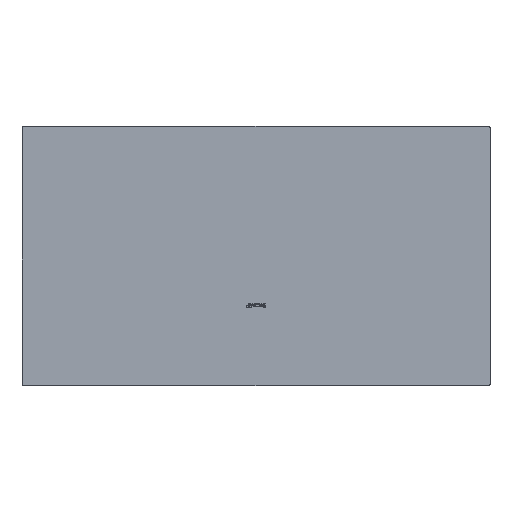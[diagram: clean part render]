
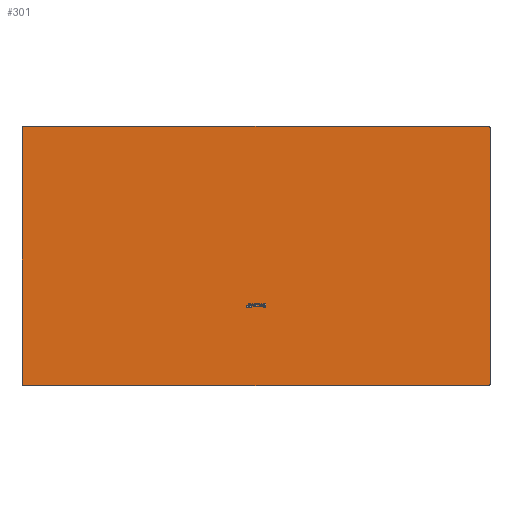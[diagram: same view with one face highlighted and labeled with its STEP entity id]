
A CAD part, top view. The second image highlights one B-rep face of the part: STEP entity #301.
In plain terms, the highlighted planar face has unit normal (0, 0, 1).
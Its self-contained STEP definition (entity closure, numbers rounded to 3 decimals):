
#241=CIRCLE('',#1663,3.);
#242=CIRCLE('',#1664,3.);
#243=CIRCLE('',#1665,3.);
#244=CIRCLE('',#1666,3.);
#301=ADVANCED_FACE('',(#453),#395,.T.);
#395=PLANE('',#1667);
#453=FACE_OUTER_BOUND('',#539,.T.);
#539=EDGE_LOOP('',(#677,#678,#679,#680,#681,#682,#683,#684));
#677=ORIENTED_EDGE('',*,*,#1193,.T.);
#678=ORIENTED_EDGE('',*,*,#1207,.T.);
#679=ORIENTED_EDGE('',*,*,#1195,.T.);
#680=ORIENTED_EDGE('',*,*,#1208,.T.);
#681=ORIENTED_EDGE('',*,*,#1201,.T.);
#682=ORIENTED_EDGE('',*,*,#1209,.T.);
#683=ORIENTED_EDGE('',*,*,#1205,.T.);
#684=ORIENTED_EDGE('',*,*,#1210,.T.);
#1049=VERTEX_POINT('',#2230);
#1050=VERTEX_POINT('',#2232);
#1051=VERTEX_POINT('',#2236);
#1052=VERTEX_POINT('',#2237);
#1057=VERTEX_POINT('',#2248);
#1058=VERTEX_POINT('',#2250);
#1061=VERTEX_POINT('',#2257);
#1062=VERTEX_POINT('',#2259);
#1193=EDGE_CURVE('',#1050,#1049,#1393,.T.);
#1195=EDGE_CURVE('',#1051,#1052,#1395,.T.);
#1201=EDGE_CURVE('',#1058,#1057,#1401,.T.);
#1205=EDGE_CURVE('',#1062,#1061,#1405,.T.);
#1207=EDGE_CURVE('',#1049,#1051,#241,.T.);
#1208=EDGE_CURVE('',#1052,#1058,#242,.T.);
#1209=EDGE_CURVE('',#1057,#1062,#243,.T.);
#1210=EDGE_CURVE('',#1061,#1050,#244,.T.);
#1393=LINE('',#2231,#1522);
#1395=LINE('',#2235,#1524);
#1401=LINE('',#2249,#1530);
#1405=LINE('',#2258,#1534);
#1522=VECTOR('',#1819,1.);
#1524=VECTOR('',#1823,1.);
#1530=VECTOR('',#1831,1.);
#1534=VECTOR('',#1837,1.);
#1663=AXIS2_PLACEMENT_3D('',#2262,#1841,#1842);
#1664=AXIS2_PLACEMENT_3D('',#2263,#1843,#1844);
#1665=AXIS2_PLACEMENT_3D('',#2264,#1845,#1846);
#1666=AXIS2_PLACEMENT_3D('',#2265,#1847,#1848);
#1667=AXIS2_PLACEMENT_3D('',#2266,#1849,#1850);
#1819=DIRECTION('',(0.,-1.,0.));
#1823=DIRECTION('',(1.,0.,0.));
#1831=DIRECTION('',(0.,1.,0.));
#1837=DIRECTION('',(-1.,0.,0.));
#1841=DIRECTION('',(0.,0.,1.));
#1842=DIRECTION('',(1.,0.,0.));
#1843=DIRECTION('',(0.,0.,1.));
#1844=DIRECTION('',(1.,0.,0.));
#1845=DIRECTION('',(0.,0.,1.));
#1846=DIRECTION('',(1.,0.,0.));
#1847=DIRECTION('',(0.,0.,1.));
#1848=DIRECTION('',(1.,0.,0.));
#1849=DIRECTION('',(0.,0.,1.));
#1850=DIRECTION('',(1.,0.,0.));
#2230=CARTESIAN_POINT('',(-465.,3.,44.));
#2231=CARTESIAN_POINT('',(-465.,515.,44.));
#2232=CARTESIAN_POINT('',(-465.,512.,44.));
#2235=CARTESIAN_POINT('',(-465.,0.,44.));
#2236=CARTESIAN_POINT('',(-462.,0.,44.));
#2237=CARTESIAN_POINT('',(462.,0.,44.));
#2248=CARTESIAN_POINT('',(465.,512.,44.));
#2249=CARTESIAN_POINT('',(465.,0.,44.));
#2250=CARTESIAN_POINT('',(465.,3.,44.));
#2257=CARTESIAN_POINT('',(-462.,515.,44.));
#2258=CARTESIAN_POINT('',(465.,515.,44.));
#2259=CARTESIAN_POINT('',(462.,515.,44.));
#2262=CARTESIAN_POINT('',(-462.,3.,44.));
#2263=CARTESIAN_POINT('',(462.,3.,44.));
#2264=CARTESIAN_POINT('',(462.,512.,44.));
#2265=CARTESIAN_POINT('',(-462.,512.,44.));
#2266=CARTESIAN_POINT('',(0.,0.,44.));
